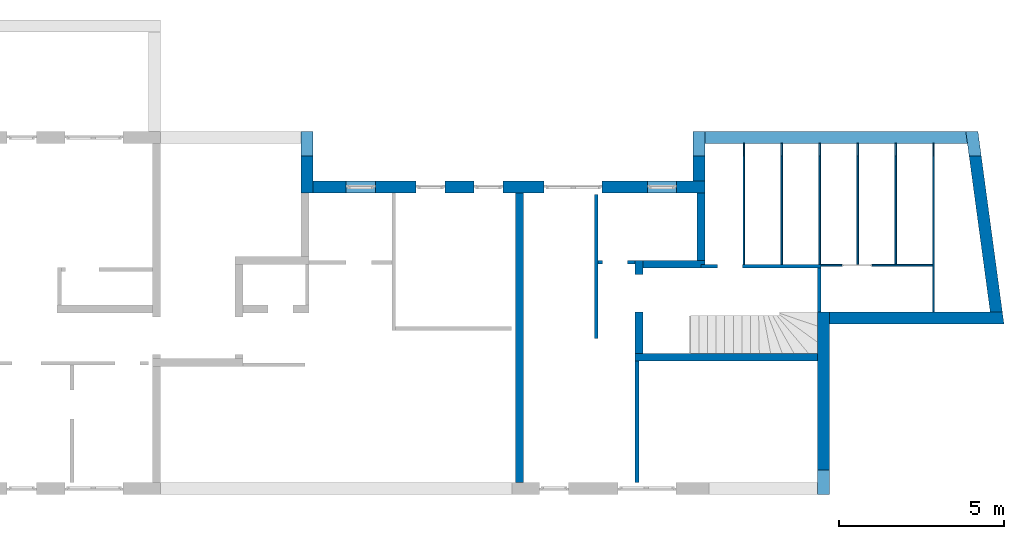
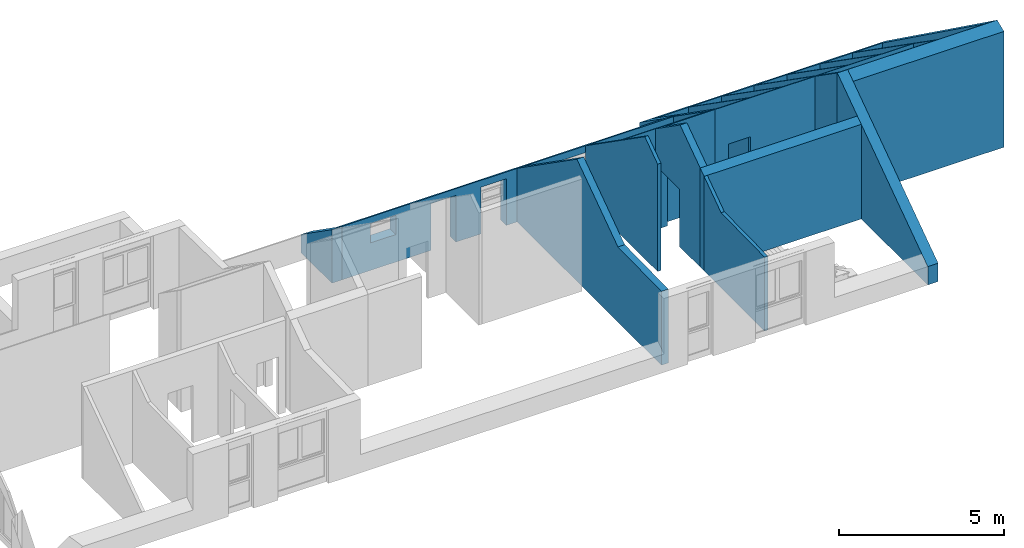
# One storey, part 3 of 23: 24 walls, 9 openings.
"""IFC2X3 building model written with IfcOpenShell, lengths in millimetres."""

from ifc_helpers import new_model, entity, si_unit, converted_unit, frame, frame_2d, origin, origin_with_axes, place, context, subcontext, project, spatial, polyline, rectangle, outline, extrude, clip, halfspace, bounded_halfspace, material, layer, layer_set, layer_usage, element, save


model = new_model("IFC2X3")

# Units and contexts
model_context = context("Model", 3, precision=1e-05, world=origin())
body_context = subcontext(model_context, "Body", "Model", "MODEL_VIEW")
ifc_project = project(units=[si_unit("LENGTHUNIT", "METRE", prefix="MILLI"), converted_unit("PLANEANGLEUNIT", "DEGREE", entity("IfcPlaneAngleMeasure", 0.0174532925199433), si_unit("PLANEANGLEUNIT", "RADIAN"), dimensions=[0, 0, 0, 0, 0, 0, 0]), si_unit("AREAUNIT", "SQUARE_METRE"), si_unit("VOLUMEUNIT", "CUBIC_METRE")], contexts=[model_context])

# Building, storey
building_placement = place(None, origin())
building = spatial("IfcBuilding", under=ifc_project, at=building_placement, Name="Gebäude", CompositionType="ELEMENT")
storey_placement = place(building_placement, frame((0.0, 0.0, 5580.0), z_axis=(0.0, 0.0, 1.0), x_axis=(1.0, 0.0, 0.0)))
storey = spatial("IfcBuildingStorey", under=building, at=storey_placement, Name="DG.- Grundriss", CompositionType="ELEMENT", Elevation=5580.0)

# Walls
ifc_material_1 = material(Name="Poroton")
ifc_layer_1 = layer(ifc_material_1, 365.0000000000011)
ifc_layer_set_1 = layer_set([ifc_layer_1])
ifc_layer_usage_1 = layer_usage(ifc_layer_set_1, "AXIS2", "POSITIVE", 0.0)
wall_1_placement = place(storey_placement, frame((185244.4349770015, 130804.8877324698, 0.0), z_axis=(0.0, 0.0, 1.0), x_axis=(-0.1340451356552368, 0.9909752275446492, 0.0)))
element("IfcWallStandardCase", 1, at=wall_1_placement, inside=storey, material=ifc_layer_usage_1, Name="<Unnamed Element>", context=body_context, shape_type="Clipping", body=[
    clip(extrude(outline(polyline([(0.0, 0.0), (5519.815075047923, 0.0), (5569.187121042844, 365.0000000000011), (49.37204599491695, 364.9999999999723), (0.0, 0.0)])), origin_with_axes(), (0.0, 0.0, 1.0), 4510.135234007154), halfspace(frame((49.37204599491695, 364.9999999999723, 4510.135234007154), z_axis=(-0.5684000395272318, 0.07688513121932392, -0.8191520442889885), x_axis=(-0.1340451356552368, -0.9909752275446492, 0.0)), True)),
])
ifc_material_2 = material(Name="Poroton")
ifc_layer_2 = layer(ifc_material_2, 365.0000000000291)
ifc_layer_set_2 = layer_set([ifc_layer_2])
ifc_layer_usage_2 = layer_usage(ifc_layer_set_2, "AXIS2", "POSITIVE", 0.0)
wall_2_placement = place(storey_placement, frame((164367.7928067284, 134409.8877324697, 0.0), z_axis=(0.0, 0.0, 1.0), x_axis=(0.0, 0.9999999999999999, 0.0)))
element("IfcWallStandardCase", 2, at=wall_2_placement, inside=storey, material=ifc_layer_usage_2, Name="<Unnamed Element>", context=body_context, shape_type="Clipping", body=[
    clip(extrude(rectangle(XDim=1865.000000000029, YDim=365.0000000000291, at=frame_2d((932.5000000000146, 182.5000000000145), x_axis=(1.0, 0.0))), origin_with_axes(), (0.0, 0.0, 1.0), 1985.88705876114), halfspace(frame((0.0, 0.0, 1985.88705876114), z_axis=(-0.5735764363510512, 0.0, -0.8191520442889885), x_axis=(0.8191520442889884, 0.0, -0.5735764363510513)), True)),
])
ifc_material_3 = material(Name="Poroton")
ifc_layer_3 = layer(ifc_material_3, 365.0000000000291)
ifc_layer_set_3 = layer_set([ifc_layer_3])
ifc_layer_usage_3 = layer_usage(ifc_layer_set_3, "AXIS2", "POSITIVE", 0.0)
wall_3_placement = place(storey_placement, frame((175872.7928067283, 136274.8877324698, 0.0), z_axis=(0.0, 0.0, 1.0), x_axis=(0.0, -1.0, 0.0)))
element("IfcWallStandardCase", 3, at=wall_3_placement, inside=storey, material=ifc_layer_usage_3, Name="<Unnamed Element>", context=body_context, shape_type="Clipping", body=[
    clip(extrude(rectangle(XDim=1500.0, YDim=365.0000000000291, at=frame_2d((750.0, 182.5000000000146), x_axis=(1.0, 0.0))), origin_with_axes(), (0.0, 0.0, 1.0), 1730.311307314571), halfspace(frame((1500.0, 365.0000000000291, 1730.311307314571), z_axis=(0.5735764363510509, 0.0, -0.8191520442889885), x_axis=(-0.8191520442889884, 0.0, -0.5735764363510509)), True)),
])
ifc_material_4 = material(Name="Poroton")
ifc_layer_4 = layer(ifc_material_4, 365.0000000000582)
ifc_layer_set_4 = layer_set([ifc_layer_4])
ifc_layer_usage_4 = layer_usage(ifc_layer_set_4, "AXIS2", "POSITIVE", 0.0)
wall_4_placement = place(storey_placement, frame((184136.2065758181, 136274.8877324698, 0.0), z_axis=(0.0, 0.0, 1.0), x_axis=(-1.0, 0.0, 0.0)))
element("IfcWallStandardCase", 4, at=wall_4_placement, inside=storey, material=ifc_layer_usage_4, Name="<Unnamed Element>", context=body_context, shape_type="Clipping", body=[
    clip(extrude(outline(polyline([(0.0, 0.0), (7898.413769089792, 0.0), (7898.413769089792, 365.0000000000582), (-49.37204599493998, 365.0000000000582), (0.0, 0.0)])), origin_with_axes(), (0.0, 0.0, 1.0), 935.5757514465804), halfspace(frame((-49.37204599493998, 365.0000000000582, 935.5757514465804), z_axis=(4.720855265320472e-17, 0.5735764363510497, -0.8191520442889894), x_axis=(0.110129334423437, -0.8141693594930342, -0.5700875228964)), True)),
])

# Wall, openings
ifc_material_5 = material(Name="Poroton")
ifc_layer_5 = layer(ifc_material_5, 365.0000000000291)
ifc_layer_set_5 = layer_set([ifc_layer_5])
ifc_layer_usage_5 = layer_usage(ifc_layer_set_5, "AXIS2", "POSITIVE", 0.0)
wall_5_placement = place(storey_placement, frame((176237.7928067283, 134774.8877324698, 0.0), z_axis=(0.0, 0.0, 1.0), x_axis=(-1.0, 0.0, 0.0)))
wall_5 = element("IfcWallStandardCase", 5, at=wall_5_placement, inside=storey, material=ifc_layer_usage_5, Name="<Unnamed Element>", context=body_context, shape_type="Clipping", body=[
    clip(extrude(rectangle(XDim=11869.99999999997, YDim=365.0000000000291, at=frame_2d((5934.999999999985, 182.5000000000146), x_axis=(1.0, 0.0))), origin_with_axes(), (0.0, 0.0, 1.0), 1985.88705876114), halfspace(frame((0.0, 0.0, 1730.311307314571), z_axis=(3.082338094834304e-17, 0.5735764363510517, -0.8191520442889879), x_axis=(1.0, 0.0, 0.0)), True)),
])
opening_1_placement = place(wall_5_placement, frame((7875.000000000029, 0.0, 0.0), z_axis=(0.0, 1.0, 0.0), x_axis=(0.0, 0.0, 1.0)))
element("IfcOpeningElement", 6, at=opening_1_placement, cuts=wall_5, Name="Fensteröffnung", ObjectType="Opening", context=body_context, shape_type="SweptSolid", body=[
    extrude(rectangle(XDim=1730.311307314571, YDim=885.0, at=frame_2d((865.1556536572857, 442.5), x_axis=(1.0, 0.0))), origin_with_axes(), (0.0, 0.0, 1.0), 365.0000000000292),
])
opening_2_placement = place(wall_5_placement, frame((6115.000000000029, 0.0, 0.0), z_axis=(0.0, 1.0, 0.0), x_axis=(0.0, 0.0, 1.0)))
element("IfcOpeningElement", 7, at=opening_2_placement, cuts=wall_5, Name="Fensteröffnung", ObjectType="Opening", context=body_context, shape_type="SweptSolid", body=[
    extrude(rectangle(XDim=1730.311307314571, YDim=885.0, at=frame_2d((865.1556536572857, 442.5), x_axis=(1.0, 0.0))), origin_with_axes(), (0.0, 0.0, 1.0), 365.0000000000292),
])
opening_3_placement = place(wall_5_placement, frame((9990.00000000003, 0.0, 1020.0), z_axis=(0.0, 1.0, 0.0), x_axis=(0.0, 0.0, 1.0)))
element("IfcOpeningElement", 8, at=opening_3_placement, cuts=wall_5, Name="Fensteröffnung", ObjectType="Opening", context=body_context, shape_type="SweptSolid", body=[
    extrude(rectangle(XDim=710.3113073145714, YDim=885.0, at=frame_2d((355.1556536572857, 442.5), x_axis=(1.0, 0.0))), origin_with_axes(), (0.0, 0.0, 1.0), 365.0000000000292),
])
opening_4_placement = place(wall_5_placement, frame((3115.000000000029, 0.0, 0.0), z_axis=(0.0, 1.0, 0.0), x_axis=(0.0, 0.0, 1.0)))
element("IfcOpeningElement", 9, at=opening_4_placement, cuts=wall_5, Name="Fensteröffnung", ObjectType="Opening", context=body_context, shape_type="SweptSolid", body=[
    extrude(rectangle(XDim=1730.311307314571, YDim=1760.0, at=frame_2d((865.1556536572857, 880.0), x_axis=(1.0, 0.0))), origin_with_axes(), (0.0, 0.0, 1.0), 365.0000000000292),
])
opening_5_placement = place(wall_5_placement, frame((865.0000000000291, 0.0, 1020.0), z_axis=(0.0, 1.0, 0.0), x_axis=(0.0, 0.0, 1.0)))
element("IfcOpeningElement", 10, at=opening_5_placement, cuts=wall_5, Name="Fensteröffnung", ObjectType="Opening", context=body_context, shape_type="SweptSolid", body=[
    extrude(rectangle(XDim=710.3113073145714, YDim=885.0, at=frame_2d((355.1556536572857, 442.5), x_axis=(1.0, 0.0))), origin_with_axes(), (0.0, 0.0, 1.0), 365.0000000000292),
])

# Walls
ifc_material_6 = material(Name="Hlz")
ifc_layer_6 = layer(ifc_material_6, 240.0)
ifc_layer_set_6 = layer_set([ifc_layer_6])
ifc_layer_usage_6 = layer_usage(ifc_layer_set_6, "AXIS2", "POSITIVE", 0.0)
wall_6_placement = place(storey_placement, frame((170742.7928053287, 125639.8877318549, 0.0), z_axis=(0.0, 0.0, 1.0), x_axis=(0.0, 1.0, 0.0)))
element("IfcWallStandardCase", 11, at=wall_6_placement, inside=storey, material=ifc_layer_usage_6, Name="<Unnamed Element>", context=body_context, shape_type="Clipping", body=[
    clip(clip(clip(extrude(rectangle(XDim=8770.000000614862, YDim=240.0, at=frame_2d((4385.000000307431, 120.0), x_axis=(1.0, 0.0))), origin_with_axes(), (0.0, 0.0, 1.0), 4531.141460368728), bounded_halfspace(frame((5135.000000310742, 240.0, 4531.141460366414), z_axis=(-0.573576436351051, -1.53119387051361e-15, -0.8191520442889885), x_axis=(-1.376368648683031e-11, -1.0, 9.640643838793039e-12)), True, origin(), polyline([(5135.000000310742, 240.0), (5135.000000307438, 0.0), (8770.000000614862, 0.0), (8770.000000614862, 240.0), (5135.000000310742, 240.0)]))), bounded_halfspace(frame((2645.131242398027, 0.0, 2787.716586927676), z_axis=(0.5735764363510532, -1.577972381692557e-11, -0.8191520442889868), x_axis=(0.8191520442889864, 0.0, 0.5735764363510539)), True, origin(), polyline([(2645.131242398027, 0.0), (5135.000000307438, 0.0), (5135.000000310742, 240.0), (2645.131242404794, 240.0), (2645.131242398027, 0.0)]))), bounded_halfspace(frame((0.0, 0.0, 2741.545649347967), z_axis=(0.01745240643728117, 4.04432439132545e-15, -0.9998476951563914), x_axis=(0.9998476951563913, 0.0, 0.01745240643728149)), True, origin(), polyline([(0.0, 0.0), (2645.131242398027, 0.0), (2645.131242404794, 240.0), (0.0, 240.0), (0.0, 0.0)]))),
])
ifc_material_7 = material(Name="Poroton")
ifc_layer_7 = layer(ifc_material_7, 365.0000000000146)
ifc_layer_set_7 = layer_set([ifc_layer_7])
ifc_layer_usage_7 = layer_usage(ifc_layer_set_7, "AXIS2", "POSITIVE", 0.0)
wall_7_placement = place(storey_placement, frame((180002.7928067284, 130439.8877324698, 0.0), z_axis=(0.0, 0.0, 1.0), x_axis=(1.0, 0.0, 0.0)))
element("IfcWallStandardCase", 12, at=wall_7_placement, inside=storey, material=ifc_layer_usage_7, Name="<Unnamed Element>", context=body_context, shape_type="Clipping", body=[
    clip(clip(extrude(outline(polyline([(0.0, 0.0), (5291.014216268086, 0.0), (5241.642170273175, 365.0000000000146), (0.0, 365.0000000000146), (0.0, 0.0)])), origin_with_axes(), (0.0, 0.0, 1.0), 4531.141460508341), bounded_halfspace(frame((5245.700146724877, 334.9999994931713, 4531.141460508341), z_axis=(-3.224463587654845e-17, -0.5735764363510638, -0.8191520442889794), x_axis=(-0.1101293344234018, 0.8141693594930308, -0.5700875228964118)), True, origin(), polyline([(5245.700146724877, 334.9999994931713), (5241.642170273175, 365.0000000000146), (0.0, 365.0000000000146), (0.0, 334.9999995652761), (5245.700146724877, 334.9999994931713)]))), bounded_halfspace(frame((0.0, 0.0, 4296.571935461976), z_axis=(1.57684366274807e-11, 0.5735764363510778, -0.8191520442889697), x_axis=(1.0, 0.0, 1.925008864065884e-11)), True, origin(), polyline([(0.0, 0.0), (5291.014216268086, 0.0), (5245.700146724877, 334.9999994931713), (0.0, 334.9999995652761), (0.0, 0.0)]))),
])
ifc_material_8 = material(Name="Poroton")
ifc_layer_8 = layer(ifc_material_8, 365.0000000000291)
ifc_layer_set_8 = layer_set([ifc_layer_8])
ifc_layer_usage_8 = layer_usage(ifc_layer_set_8, "AXIS2", "POSITIVE", 0.0)
wall_8_placement = place(storey_placement, frame((179637.7928067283, 130804.8877324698, 0.0), z_axis=(0.0, 0.0, 1.0), x_axis=(0.0, -1.0, 0.0)))
element("IfcWallStandardCase", 13, at=wall_8_placement, inside=storey, material=ifc_layer_usage_8, Name="<Unnamed Element>", context=body_context, shape_type="Clipping", body=[
    clip(clip(extrude(rectangle(XDim=5530.000000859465, YDim=365.0000000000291, at=frame_2d((2765.000000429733, 182.5000000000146), x_axis=(1.0, 0.0))), origin_with_axes(), (0.0, 0.0, 1.0), 4531.141460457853), bounded_halfspace(frame((0.0, 0.0, 4510.135234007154), z_axis=(0.5735764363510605, 8.71848425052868e-16, -0.8191520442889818), x_axis=(0.8191520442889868, 0.0, 0.5735764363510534)), True, origin(), polyline([(0.0, 0.0), (30.00000042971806, 0.0), (30.00000043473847, 365.0000000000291), (0.0, 365.0000000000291), (0.0, 0.0)]))), bounded_halfspace(frame((5530.000000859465, 0.0, 679.9999999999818), z_axis=(-0.5735764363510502, 1.577415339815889e-11, -0.8191520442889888), x_axis=(2.75091000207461e-11, 1.0, -1.245883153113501e-14)), True, origin(), polyline([(5530.000000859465, 0.0), (5530.000000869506, 365.0000000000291), (30.00000043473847, 365.0000000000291), (30.00000042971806, 0.0), (5530.000000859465, 0.0)]))),
])
ifc_material_9 = material(Name="Hlz")
ifc_layer_9 = layer(ifc_material_9, 240.0)
ifc_layer_set_9 = layer_set([ifc_layer_9])
ifc_layer_usage_9 = layer_usage(ifc_layer_set_9, "AXIS2", "POSITIVE", 0.0)
wall_9_placement = place(storey_placement, frame((174122.7949845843, 129314.8877324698, 0.0), z_axis=(0.0, 0.0, 1.0), x_axis=(1.0, 0.0, 0.0)))
element("IfcWallStandardCase", 14, at=wall_9_placement, inside=storey, material=ifc_layer_usage_9, Name="<Unnamed Element>", context=body_context, shape_type="Clipping", body=[
    clip(extrude(rectangle(XDim=5514.997822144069, YDim=240.0, at=frame_2d((2757.498911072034, 120.0), x_axis=(1.0, 0.0))), origin_with_axes(), (0.0, 0.0, 1.0), 3676.888264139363), halfspace(frame((0.0, 0.0, 3508.838454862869), z_axis=(1.57686455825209e-11, 0.5735764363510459, -0.8191520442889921), x_axis=(1.0, 0.0, 1.924996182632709e-11)), True)),
])
ifc_material_10 = material(Name="Hlz")
ifc_layer_10 = layer(ifc_material_10, 240.0)
ifc_layer_set_10 = layer_set([ifc_layer_10])
ifc_layer_usage_10 = layer_usage(ifc_layer_set_10, "AXIS2", "POSITIVE", 0.0)
wall_10_placement = place(storey_placement, frame((174362.7949845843, 132129.886626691, 0.0), z_axis=(0.0, 0.0, 1.0), x_axis=(1.0, 0.0, 0.0)))
element("IfcWallStandardCase", 15, at=wall_10_placement, inside=storey, material=ifc_layer_usage_10, Name="<Unnamed Element>", context=body_context, shape_type="Clipping", body=[
    clip(extrude(outline(polyline([(0.0, 0.0), (1759.997822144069, 0.0), (1759.997822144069, 115.0), (1874.997822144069, 115.0), (1874.997822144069, 240.0), (0.0, 240.0), (0.0, 0.0)])), origin_with_axes(), (0.0, 0.0, 1.0), 3582.361020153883), halfspace(frame((0.0, 0.0, 3582.361020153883), z_axis=(-4.096034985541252e-16, -0.5735764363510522, -0.8191520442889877), x_axis=(1.0, 0.0, 0.0)), True)),
])
ifc_material_11 = material(Name="Hlz")
ifc_layer_11 = layer(ifc_material_11, 240.0)
ifc_layer_set_11 = layer_set([ifc_layer_11])
ifc_layer_usage_11 = layer_usage(ifc_layer_set_11, "AXIS2", "POSITIVE", 0.0)
wall_11_placement = place(storey_placement, frame((176237.7928067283, 132369.886626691, 0.0), z_axis=(0.0, 0.0, 1.0), x_axis=(0.0, 1.0, 0.0)))
element("IfcWallStandardCase", 16, at=wall_11_placement, inside=storey, material=ifc_layer_usage_11, Name="<Unnamed Element>", context=body_context, shape_type="Clipping", body=[
    clip(extrude(rectangle(XDim=2040.001105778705, YDim=240.0, at=frame_2d((1020.000552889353, 120.0), x_axis=(1.0, 0.0))), origin_with_axes(), (0.0, 0.0, 1.0), 3414.311210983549), halfspace(frame((0.0, 0.0, 3414.311210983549), z_axis=(-0.5735764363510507, 0.0, -0.8191520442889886), x_axis=(0.8191520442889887, 0.0, -0.5735764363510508)), True)),
])

# Wall, opening
ifc_material_12 = material(Name="Hlz")
ifc_layer_12 = layer(ifc_material_12, 240.0)
ifc_layer_set_12 = layer_set([ifc_layer_12])
ifc_layer_usage_12 = layer_usage(ifc_layer_set_12, "AXIS2", "POSITIVE", 0.0)
wall_12_placement = place(storey_placement, frame((174362.7949845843, 129554.8877324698, 0.0), z_axis=(0.0, 0.0, 1.0), x_axis=(0.0, 0.9999999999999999, 0.0)))
wall_12 = element("IfcWallStandardCase", 17, at=wall_12_placement, inside=storey, material=ifc_layer_usage_12, Name="<Unnamed Element>", context=body_context, shape_type="Clipping", body=[
    clip(clip(extrude(rectangle(XDim=2814.998894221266, YDim=240.0, at=frame_2d((1407.499447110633, 120.0), x_axis=(1.0, 0.0))), origin_with_axes(), (0.0, 0.0, 1.0), 4531.141460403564), bounded_halfspace(frame((1219.999999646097, 240.0, 4531.141460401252), z_axis=(-0.5735764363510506, 1.767306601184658e-15, -0.8191520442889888), x_axis=(-1.376368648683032e-11, -1.0, 9.633064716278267e-12)), True, origin(), polyline([(1219.999999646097, 240.0), (1219.999999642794, 0.0), (2814.998894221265, 0.0), (2814.998894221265, 240.0), (1219.999999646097, 240.0)]))), bounded_halfspace(frame((0.0, 0.0, 3676.88826403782), z_axis=(0.5735764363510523, -1.577750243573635e-11, -0.8191520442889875), x_axis=(0.8191520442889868, 0.0, 0.5735764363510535)), True, origin(), polyline([(0.0, 0.0), (1219.999999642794, 0.0), (1219.999999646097, 240.0), (0.0, 240.0), (0.0, 0.0)]))),
])
opening_6_placement = place(wall_12_placement, frame((1251.173700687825, 0.0, 0.0), z_axis=(0.0, 1.0, 0.0), x_axis=(0.0, 0.0, 1.0)))
element("IfcOpeningElement", 18, at=opening_6_placement, cuts=wall_12, Name="Türöffnung", ObjectType="Opening", context=body_context, shape_type="SweptSolid", body=[
    extrude(rectangle(XDim=2135.0, YDim=1135.0, at=frame_2d((1067.5, 567.5), x_axis=(1.0, 0.0))), origin_with_axes(), (0.0, 0.0, 1.0), 240.0),
])

# Wall
ifc_material_13 = material(Name="Hlz")
ifc_layer_13 = layer(ifc_material_13, 115.0)
ifc_layer_set_13 = layer_set([ifc_layer_13])
ifc_layer_usage_13 = layer_usage(ifc_layer_set_13, "AXIS2", "POSITIVE", 0.0)
wall_13_placement = place(storey_placement, frame((174122.7949845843, 129314.8877324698, 0.0), z_axis=(0.0, 0.0, 1.0), x_axis=(0.0, -1.0, 0.0)))
element("IfcWallStandardCase", 19, at=wall_13_placement, inside=storey, material=ifc_layer_usage_13, Name="<Unnamed Element>", context=body_context, shape_type="Clipping", body=[
    clip(clip(extrude(rectangle(XDim=3675.00000070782, YDim=115.0, at=frame_2d((1837.50000035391, 57.5), x_axis=(1.0, 0.0))), origin_with_axes(), (0.0, 0.0, 1.0), 3508.838454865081), bounded_halfspace(frame((0.0, 0.0, 3508.838454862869), z_axis=(-0.5735764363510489, 1.576284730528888e-11, -0.81915204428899), x_axis=(0.8191520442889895, 0.0, -0.5735764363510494)), True, origin(), polyline([(0.0, 0.0), (1029.868758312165, 0.0), (1029.86875831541, 115.0), (0.0, 115.0), (0.0, 0.0)]))), bounded_halfspace(frame((3675.000000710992, 115.0, 2741.54564934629), z_axis=(-0.01745240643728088, -3.304922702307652e-15, -0.9998476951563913), x_axis=(-0.9998476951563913, 0.0, 0.01745240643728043)), True, origin(), polyline([(3675.000000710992, 115.0), (1029.86875831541, 115.0), (1029.868758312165, 0.0), (3675.00000070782, 0.0), (3675.000000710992, 115.0)]))),
])

# Wall, opening
ifc_material_14 = material(Name="Hlz")
ifc_layer_14 = layer(ifc_material_14, 115.0)
ifc_layer_set_14 = layer_set([ifc_layer_14])
ifc_layer_usage_14 = layer_usage(ifc_layer_set_14, "AXIS2", "POSITIVE", 0.0)
wall_14_placement = place(storey_placement, frame((174122.7949845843, 132369.886626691, 0.0), z_axis=(0.0, 0.0, 1.0), x_axis=(-1.0, 0.0, 0.0)))
wall_14 = element("IfcWallStandardCase", 20, at=wall_14_placement, inside=storey, material=ifc_layer_usage_14, Name="<Unnamed Element>", context=body_context, shape_type="Clipping", body=[
    clip(extrude(rectangle(XDim=1122.934123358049, YDim=115.0, at=frame_2d((561.4670616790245, 57.5), x_axis=(1.0, 0.0))), origin_with_axes(), (0.0, 0.0, 1.0), 3494.835077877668), halfspace(frame((0.0, 0.0, 3414.311210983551), z_axis=(0.0, 0.5735764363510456, -0.8191520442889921), x_axis=(1.0, 0.0, 0.0)), True)),
])
opening_7_placement = place(wall_14_placement, frame((237.934123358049, 0.0, 0.0), z_axis=(0.0, 1.0, 0.0), x_axis=(0.0, 0.0, 1.0)))
element("IfcOpeningElement", 21, at=opening_7_placement, cuts=wall_14, Name="Türöffnung", ObjectType="Opening", context=body_context, shape_type="SweptSolid", body=[
    extrude(rectangle(XDim=2135.0, YDim=760.0, at=frame_2d((1067.5, 380.0), x_axis=(1.0, 0.0))), origin_with_axes(), (0.0, 0.0, 1.0), 115.0),
])

# Wall
ifc_material_15 = material(Name="Hlz")
ifc_layer_15 = layer(ifc_material_15, 115.0)
ifc_layer_set_15 = layer_set([ifc_layer_15])
ifc_layer_usage_15 = layer_usage(ifc_layer_set_15, "AXIS2", "POSITIVE", 0.0)
wall_15_placement = place(storey_placement, frame((172999.8608612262, 129994.8947609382, 0.0), z_axis=(0.0, 0.0, 1.0), x_axis=(0.0, 1.0, 0.0)))
element("IfcWallStandardCase", 22, at=wall_15_placement, inside=storey, material=ifc_layer_usage_15, Name="<Unnamed Element>", context=body_context, shape_type="Clipping", body=[
    clip(clip(extrude(outline(polyline([(0.0, 0.0), (4376.57098960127, 0.0), (4376.57098960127, 115.0), (-0.00513315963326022, 115.0), (0.0, 0.0)])), origin_with_axes(), (0.0, 0.0, 1.0), 4531.14146039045), bounded_halfspace(frame((779.9929711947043, 115.0, 4531.141460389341), z_axis=(-0.5735764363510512, 4.648626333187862e-15, -0.8191520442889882), x_axis=(-1.379268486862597e-11, -1.0, 9.648552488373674e-12)), True, origin(), polyline([(779.9929711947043, 115.0), (779.9929711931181, 0.0), (4376.57098960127, 0.0), (4376.57098960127, 115.0), (779.9929711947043, 115.0)]))), bounded_halfspace(frame((0.0, 0.0, 3984.984502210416), z_axis=(0.5735764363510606, -1.579169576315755e-11, -0.8191520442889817), x_axis=(0.8191520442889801, 0.0, 0.5735764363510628)), True, origin(), polyline([(0.0, 0.0), (779.9929711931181, 0.0), (779.9929711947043, 115.0), (-0.00513315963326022, 115.0), (0.0, 0.0)]))),
])

# Wall, opening
ifc_material_16 = material(Name="Hlz")
ifc_layer_16 = layer(ifc_material_16, 115.0)
ifc_layer_set_16 = layer_set([ifc_layer_16])
ifc_layer_usage_16 = layer_usage(ifc_layer_set_16, "AXIS2", "POSITIVE", 0.0)
wall_16_placement = place(storey_placement, frame((179752.7928067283, 132244.886626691, 0.0), z_axis=(0.0, 0.0, 1.0), x_axis=(-0.9999999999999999, 0.0, 0.0)))
wall_16 = element("IfcWallStandardCase", 23, at=wall_16_placement, inside=storey, material=ifc_layer_usage_16, Name="<Unnamed Element>", context=body_context, shape_type="Clipping", body=[
    clip(extrude(rectangle(XDim=3630.0, YDim=115.0, at=frame_2d((1815.0, 57.49999999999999), x_axis=(1.0, 0.0))), origin_with_axes(), (0.0, 0.0, 1.0), 3582.361020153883), halfspace(frame((0.0, 0.0, 3501.837153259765), z_axis=(0.0, 0.5735764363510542, -0.8191520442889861), x_axis=(1.0, 0.0, 0.0)), True)),
])
opening_8_placement = place(wall_16_placement, frame((2382.065876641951, 0.0, 0.0), z_axis=(0.0, 1.0, 0.0), x_axis=(0.0, 0.0, 1.0)))
element("IfcOpeningElement", 24, at=opening_8_placement, cuts=wall_16, Name="Türöffnung", ObjectType="Opening", context=body_context, shape_type="SweptSolid", body=[
    extrude(rectangle(XDim=2135.0, YDim=760.0, at=frame_2d((1067.5, 380.0), x_axis=(1.0, 0.0))), origin_with_axes(), (0.0, 0.0, 1.0), 115.0),
])

# Walls
ifc_material_17 = material(Name="Hlz")
ifc_layer_17 = layer(ifc_material_17, 115.0)
ifc_layer_set_17 = layer_set([ifc_layer_17])
ifc_layer_usage_17 = layer_usage(ifc_layer_set_17, "AXIS2", "POSITIVE", 0.0)
wall_17_placement = place(storey_placement, frame((179752.7928067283, 130804.8928656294, 0.0), z_axis=(0.0, 0.0, 1.0), x_axis=(0.0, 1.0, 0.0)))
element("IfcWallStandardCase", 25, at=wall_17_placement, inside=storey, material=ifc_layer_usage_17, Name="<Unnamed Element>", context=body_context, shape_type="Clipping", body=[
    clip(extrude(outline(polyline([(0.0, 0.0), (1324.993761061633, 0.0), (1324.993761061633, 115.0), (-0.00513315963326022, 115.0), (0.0, 0.0)])), origin_with_axes(), (0.0, 0.0, 1.0), 4510.135234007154), halfspace(frame((0.0, 0.0, 4510.131639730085), z_axis=(-0.5735764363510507, -5.991410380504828e-15, -0.8191520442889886), x_axis=(0.8191520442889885, 0.0, -0.5735764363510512)), True)),
])
ifc_material_18 = material(Name="Metallgitterwand")
ifc_layer_18 = layer(ifc_material_18, 50.0)
ifc_layer_set_18 = layer_set([ifc_layer_18])
ifc_layer_usage_18 = layer_usage(ifc_layer_set_18, "AXIS2", "POSITIVE", 0.0)
wall_18_placement = place(storey_placement, frame((177387.7928067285, 135909.8877324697, 0.0), z_axis=(0.0, 0.0, 1.0), x_axis=(-3.970507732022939e-14, -1.0, 0.0)))
element("IfcWallStandardCase", 26, at=wall_18_placement, inside=storey, material=ifc_layer_usage_18, Name="<Unnamed Element>", context=body_context, shape_type="Clipping", body=[
    clip(extrude(rectangle(XDim=3665.001105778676, YDim=50.0, at=frame_2d((1832.500552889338, 25.0), x_axis=(1.0, 0.0))), origin_with_axes(), (0.0, 0.0, 1.0), 3501.837153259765), halfspace(frame((0.0, 0.0, 935.5757514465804), z_axis=(0.5735764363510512, 2.069232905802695e-14, -0.8191520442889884), x_axis=(0.8191520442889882, 0.0, 0.5735764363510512)), True)),
])
ifc_material_19 = material(Name="Metallgitterwand")
ifc_layer_19 = layer(ifc_material_19, 50.0)
ifc_layer_set_19 = layer_set([ifc_layer_19])
ifc_layer_usage_19 = layer_usage(ifc_layer_set_19, "AXIS2", "POSITIVE", 0.0)
wall_19_placement = place(storey_placement, frame((178537.7928067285, 135909.8877324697, 0.0), z_axis=(0.0, 0.0, 1.0), x_axis=(-3.970507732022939e-14, -1.0, 0.0)))
element("IfcWallStandardCase", 27, at=wall_19_placement, inside=storey, material=ifc_layer_usage_19, Name="<Unnamed Element>", context=body_context, shape_type="Clipping", body=[
    clip(extrude(rectangle(XDim=3665.001105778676, YDim=50.0, at=frame_2d((1832.500552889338, 25.0), x_axis=(1.0, 0.0))), origin_with_axes(), (0.0, 0.0, 1.0), 3501.837153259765), halfspace(frame((0.0, 0.0, 935.5757514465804), z_axis=(0.5735764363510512, 2.069232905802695e-14, -0.8191520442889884), x_axis=(0.8191520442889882, 0.0, 0.5735764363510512)), True)),
])
ifc_material_20 = material(Name="Metallgitterwand")
ifc_layer_20 = layer(ifc_material_20, 50.0)
ifc_layer_set_20 = layer_set([ifc_layer_20])
ifc_layer_usage_20 = layer_usage(ifc_layer_set_20, "AXIS2", "POSITIVE", 0.0)
wall_20_placement = place(storey_placement, frame((179687.7928067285, 135909.8877324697, 0.0), z_axis=(0.0, 0.0, 1.0), x_axis=(-3.970507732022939e-14, -1.0, 0.0)))
element("IfcWallStandardCase", 28, at=wall_20_placement, inside=storey, material=ifc_layer_usage_20, Name="<Unnamed Element>", context=body_context, shape_type="Clipping", body=[
    clip(extrude(rectangle(XDim=3665.001105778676, YDim=50.0, at=frame_2d((1832.500552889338, 25.0), x_axis=(1.0, 0.0))), origin_with_axes(), (0.0, 0.0, 1.0), 3501.837153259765), halfspace(frame((0.0, 0.0, 935.5757514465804), z_axis=(0.5735764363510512, 2.069232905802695e-14, -0.8191520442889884), x_axis=(0.8191520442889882, 0.0, 0.5735764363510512)), True)),
])
ifc_material_21 = material(Name="Metallgitterwand")
ifc_layer_21 = layer(ifc_material_21, 50.0)
ifc_layer_set_21 = layer_set([ifc_layer_21])
ifc_layer_usage_21 = layer_usage(ifc_layer_set_21, "AXIS2", "POSITIVE", 0.0)
wall_21_placement = place(storey_placement, frame((180837.7928067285, 135909.8877324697, 0.0), z_axis=(0.0, 0.0, 1.0), x_axis=(-3.970507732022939e-14, -1.0, 0.0)))
element("IfcWallStandardCase", 29, at=wall_21_placement, inside=storey, material=ifc_layer_usage_21, Name="<Unnamed Element>", context=body_context, shape_type="Clipping", body=[
    clip(extrude(rectangle(XDim=3665.001105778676, YDim=50.0, at=frame_2d((1832.500552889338, 25.0), x_axis=(1.0, 0.0))), origin_with_axes(), (0.0, 0.0, 1.0), 3501.837153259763), halfspace(frame((0.0, 0.0, 935.5757514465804), z_axis=(0.5735764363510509, 2.277389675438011e-14, -0.8191520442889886), x_axis=(0.8191520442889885, 0.0, 0.5735764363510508)), True)),
])
ifc_material_22 = material(Name="Metallgitterwand")
ifc_layer_22 = layer(ifc_material_22, 50.0)
ifc_layer_set_22 = layer_set([ifc_layer_22])
ifc_layer_usage_22 = layer_usage(ifc_layer_set_22, "AXIS2", "POSITIVE", 0.0)
wall_22_placement = place(storey_placement, frame((181987.7928067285, 135909.8877324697, 0.0), z_axis=(0.0, 0.0, 1.0), x_axis=(-3.970507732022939e-14, -1.0, 0.0)))
element("IfcWallStandardCase", 30, at=wall_22_placement, inside=storey, material=ifc_layer_usage_22, Name="<Unnamed Element>", context=body_context, shape_type="Clipping", body=[
    clip(extrude(rectangle(XDim=3665.001105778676, YDim=50.0, at=frame_2d((1832.500552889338, 25.0), x_axis=(1.0, 0.0))), origin_with_axes(), (0.0, 0.0, 1.0), 3501.837153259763), halfspace(frame((0.0, 0.0, 935.5757514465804), z_axis=(0.5735764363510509, 2.277389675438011e-14, -0.8191520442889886), x_axis=(0.8191520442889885, 0.0, 0.5735764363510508)), True)),
])
ifc_material_23 = material(Name="Metallgitterwand")
ifc_layer_23 = layer(ifc_material_23, 50.0)
ifc_layer_set_23 = layer_set([ifc_layer_23])
ifc_layer_usage_23 = layer_usage(ifc_layer_set_23, "AXIS2", "POSITIVE", 0.0)
wall_23_placement = place(storey_placement, frame((183137.7928067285, 135909.8877324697, 0.0), z_axis=(0.0, 0.0, 1.0), x_axis=(-3.990730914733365e-14, -1.0, 0.0)))
element("IfcWallStandardCase", 31, at=wall_23_placement, inside=storey, material=ifc_layer_usage_23, Name="<Unnamed Element>", context=body_context, shape_type="Clipping", body=[
    clip(extrude(rectangle(XDim=5104.999999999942, YDim=50.0, at=frame_2d((2552.499999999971, 25.0), x_axis=(1.0, 0.0))), origin_with_axes(), (0.0, 0.0, 1.0), 4510.135234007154), halfspace(frame((0.0, 0.0, 935.5757514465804), z_axis=(0.573576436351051, 2.288989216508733e-14, -0.8191520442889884), x_axis=(0.8191520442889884, 6.310887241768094e-30, 0.573576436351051)), True)),
])

# Wall, opening
ifc_material_24 = material(Name="Metallgitterwand")
ifc_layer_24 = layer(ifc_material_24, 49.99999999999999)
ifc_layer_set_24 = layer_set([ifc_layer_24])
ifc_layer_usage_24 = layer_usage(ifc_layer_set_24, "AXIS2", "POSITIVE", 0.0)
wall_24_placement = place(storey_placement, frame((179752.7928067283, 132194.886626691, 0.0), z_axis=(0.0, 0.0, 1.0), x_axis=(0.9999999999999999, 0.0, 0.0)))
wall_24 = element("IfcWallStandardCase", 32, at=wall_24_placement, inside=storey, material=ifc_layer_usage_24, Name="<Unnamed Element>", context=body_context, shape_type="Clipping", body=[
    clip(extrude(rectangle(XDim=3385.0, YDim=49.99999999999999, at=frame_2d((1692.5, 25.0), x_axis=(1.0, 0.0))), origin_with_axes(), (0.0, 0.0, 1.0), 3536.847530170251), halfspace(frame((0.0, 0.0, 3536.847530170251), z_axis=(-2.200928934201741e-16, -0.5735764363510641, -0.8191520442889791), x_axis=(1.0, 0.0, 0.0)), True)),
])
opening_9_placement = place(wall_24_placement, frame((637.5443397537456, 0.0, 0.0), z_axis=(0.0, 1.0, 0.0), x_axis=(0.0, 0.0, 1.0)))
element("IfcOpeningElement", 33, at=opening_9_placement, cuts=wall_24, Name="Türöffnung", ObjectType="Opening", context=body_context, shape_type="SweptSolid", body=[
    extrude(rectangle(XDim=2135.0, YDim=900.0, at=frame_2d((1067.5, 450.0), x_axis=(1.0, 0.0))), origin_with_axes(), (0.0, 0.0, 1.0), 50.0),
])

save(model, "model.ifc")
